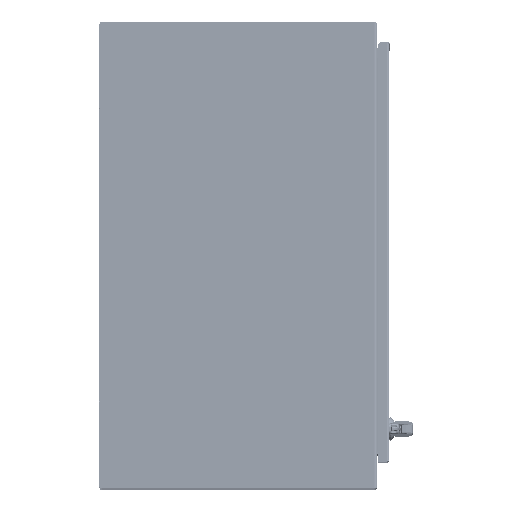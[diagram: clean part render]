
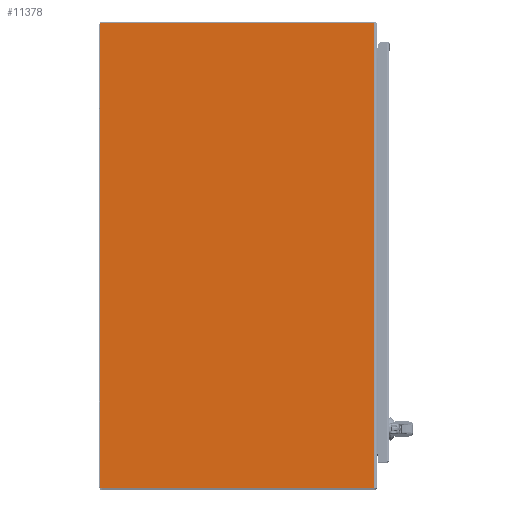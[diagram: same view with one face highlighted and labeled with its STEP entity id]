
A CAD part, top view. The second image highlights one B-rep face of the part: STEP entity #11378.
In plain terms, the highlighted planar face has unit normal (0, 0, 1) as drawn and (0, 1, 0) by its records, which use the part's own axes.
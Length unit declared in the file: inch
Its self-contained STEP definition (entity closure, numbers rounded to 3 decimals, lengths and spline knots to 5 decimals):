
#10593=CARTESIAN_POINT('',(-23.888,0.,-20.013));
#10594=DIRECTION('',(0.,1.,0.));
#10595=DIRECTION('',(0.,0.,-1.));
#10596=AXIS2_PLACEMENT_3D('',#10593,#10594,#10595);
#10601=CARTESIAN_POINT('',(-23.888,0.,20.013));
#10602=DIRECTION('',(0.,1.,0.));
#10603=DIRECTION('',(-1.,0.,0.));
#10604=AXIS2_PLACEMENT_3D('',#10601,#10602,#10603);
#10616=DIRECTION('',(0.,0.,-1.));
#10617=VECTOR('',#10616,40.026);
#10618=CARTESIAN_POINT('',(-23.948,0.,20.013));
#10619=LINE('',#10618,#10617);
#10644=DIRECTION('',(-1.,0.,0.));
#10645=VECTOR('',#10644,23.6415);
#10646=CARTESIAN_POINT('',(-0.2465,0.,20.073));
#10647=LINE('',#10646,#10645);
#10687=DIRECTION('',(0.,0.,1.));
#10688=VECTOR('',#10687,40.146);
#10689=CARTESIAN_POINT('',(-0.2465,0.,-20.073));
#10690=LINE('',#10689,#10688);
#10795=DIRECTION('',(-1.,0.,0.));
#10796=VECTOR('',#10795,23.6415);
#10797=CARTESIAN_POINT('',(-0.2465,0.,-20.073));
#10798=LINE('',#10797,#10796);
#11263=CARTESIAN_POINT('',(-0.2465,0.,20.073));
#11264=VERTEX_POINT('',#11263);
#11265=CARTESIAN_POINT('',(-0.2465,0.,-20.073));
#11266=VERTEX_POINT('',#11265);
#11291=CARTESIAN_POINT('',(-23.888,0.,-20.073));
#11292=CARTESIAN_POINT('',(-23.948,0.,-20.013));
#11293=VERTEX_POINT('',#11291);
#11294=VERTEX_POINT('',#11292);
#11299=CARTESIAN_POINT('',(-23.948,0.,20.013));
#11300=CARTESIAN_POINT('',(-23.888,0.,20.073));
#11301=VERTEX_POINT('',#11299);
#11302=VERTEX_POINT('',#11300);
#11359=CARTESIAN_POINT('',(0.,0.,20.073));
#11360=DIRECTION('',(0.,1.,0.));
#11361=DIRECTION('',(-1.,0.,0.));
#11362=AXIS2_PLACEMENT_3D('',#11359,#11360,#11361);
#11363=PLANE('',#11362);
#11365=ORIENTED_EDGE('',*,*,#11364,.F.);
#11367=ORIENTED_EDGE('',*,*,#11366,.F.);
#11369=ORIENTED_EDGE('',*,*,#11368,.T.);
#11371=ORIENTED_EDGE('',*,*,#11370,.T.);
#11373=ORIENTED_EDGE('',*,*,#11372,.F.);
#11375=ORIENTED_EDGE('',*,*,#11374,.T.);
#11376=EDGE_LOOP('',(#11365,#11367,#11369,#11371,#11373,#11375));
#11377=FACE_OUTER_BOUND('',#11376,.F.);
#10597=CIRCLE('',#10596,0.06);
#10605=CIRCLE('',#10604,0.06);
#11364=EDGE_CURVE('',#11293,#11294,#10597,.T.);
#11366=EDGE_CURVE('',#11266,#11293,#10798,.T.);
#11368=EDGE_CURVE('',#11266,#11264,#10690,.T.);
#11370=EDGE_CURVE('',#11264,#11302,#10647,.T.);
#11372=EDGE_CURVE('',#11301,#11302,#10605,.T.);
#11374=EDGE_CURVE('',#11301,#11294,#10619,.T.);
#11378=ADVANCED_FACE('',(#11377),#11363,.T.);
